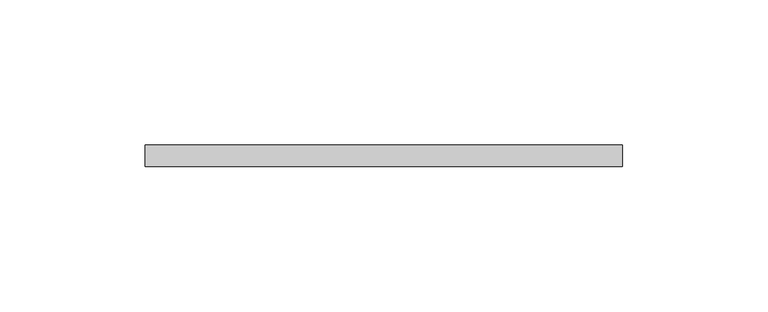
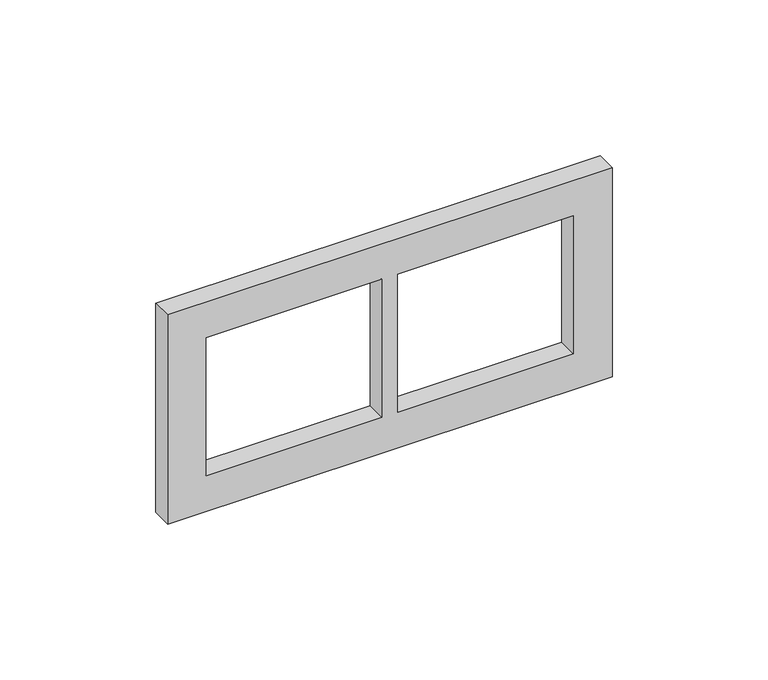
"""IFC4 building model written with IfcOpenShell, lengths in millimetres: proxy geometry, Iris_Plus_AluminioMercurio : Marco 2 elementos."""

from ifc_helpers import new_model, si_unit, frame, origin, place, context, project, spatial, polyline, outline, extrude, source, transform, mapped, element, save


def electrical_fixtures_60172af4(model_context):
    return source(origin(), model_context, "Body", "SweptSolid", [
        extrude(outline(polyline([(1040.9581078, 7.2), (959.0, 7.2), (959.0, 171.8), (1040.9581078, 171.8), (1040.9581078, 7.2)]), holes=[polyline([(1027.0, 86.5), (973.0, 86.5), (973.0, 21.5), (1027.0, 21.5), (1027.0, 86.5)]), polyline([(1027.0, 157.5), (973.0, 157.5), (973.0, 92.5), (1027.0, 92.5), (1027.0, 157.5)])]), frame((0.0, 100.0, 0.0), z_axis=(0.0, 1.0, 0.0), x_axis=(0.0, 0.0, 1.0)), (0.0, 0.0, 1.0), 7.5),
    ])


if __name__ == "__main__":
    model = new_model("IFC4")
    model_context = context("Model", 3, world=origin())
    ifc_project = project(units=[si_unit("LENGTHUNIT", "METRE", prefix="MILLI")], contexts=[model_context])
    site = spatial("IfcSite", under=ifc_project)
    building = spatial("IfcBuilding", under=site)
    placement = place(None, origin())
    electrical_fixtures_shape = electrical_fixtures_60172af4(model_context)
    element("IfcBuildingElementProxy", 1, Name="Iris_Plus_AluminioMercurio : Marco 2 elementos", ObjectType="Iris_Plus_AluminioMercurio : Marco 2 elementos", at=placement, inside=building, context=model_context, shape_type="MappedRepresentation", body=[
        mapped(electrical_fixtures_shape, transform((0.0, 0.0, 0.0), x_axis=(1.0, 0.0, 0.0), y_axis=(0.0, 1.0, 0.0), z_axis=(0.0, 0.0, 1.0))),
    ])
    save(model, "model.ifc")
